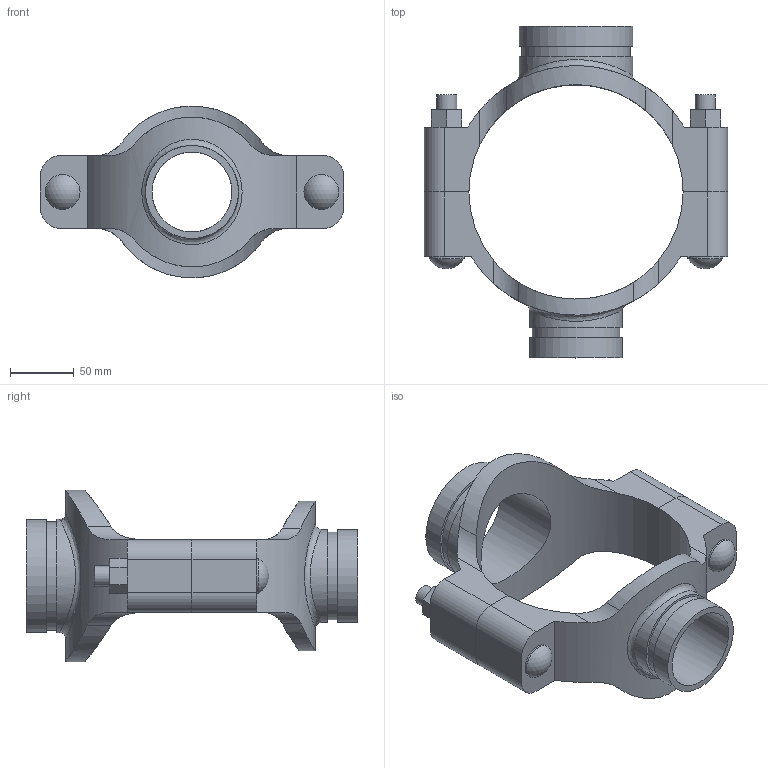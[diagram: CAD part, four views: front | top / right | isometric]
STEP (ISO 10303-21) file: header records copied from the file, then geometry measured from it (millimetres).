
FILE_DESCRIPTION(/* description */ ('VIC MECH-T BRANCH OUTLET CROSS STYLE 920N (GRVD)','CAx-IF Rec.Pracs.---Representation and Presentation of Product Manufacturing Information (PMI)---4.0---2014-10-13'),/* implementation_level */ '2;1');
FILE_NAME(/* name */ 'C:\Users\Vjadhav\AppData\Roaming\Autodesk\ApplicationPlugins\Back Up\Victaulic_IPS_Mechanical-Cross Outlet_Style 920N (OGS)\Victaulic_IPS_Mechanical-Cross Outlet_06.0x03.0x02.5 (150x80x65).stp',/* time_stamp */ '2020-08-06T19:44:54+05:00',/* author */ ('Vjadhav'),/* organization */ ('Victaulic'),/* preprocessor_version */ 'ST-DEVELOPER v17.2',/* originating_system */ 'Autodesk Inventor 2019',/* authorisation */ '');
FILE_SCHEMA (('AP242_MANAGED_MODEL_BASED_3D_ENGINEERING_MIM_LF { 1 0 10303 442 1 1 4 }'));
Length unit declared in the file: inch
Products named in the file (3): 920NG-06.0x03.0x02.5; 920G-06.0x03.0; 920G-06.0x02.5
Assembly tree (2 placements, depth 2):
  920NG-06.0x03.0x02.5
    920G-06.0x03.0
    920G-06.0x02.5
Bounding box: 238.25 x 260.6 x 134.79 mm (x, y, z)
Volume: 871040.9 mm3; surface area: 182512.4 mm2
Topology: 2 solids, 2 shells, 104 faces, 262 edges, 178 vertices
Faces by surface type: plane 54, cylinder 46, sphere 2, bspline 2
Full cylindrical faces by diameter (mm): 15.875 x4, 27.381 x2, 62.738 x1, 69.088 x1, 73.025 x2, 77.787 x1, 84.938 x1, 88.9 x2
Entity records: 4206 total; most frequent: CARTESIAN_POINT 1433, DIRECTION 532, ORIENTED_EDGE 524, EDGE_CURVE 262, AXIS2_PLACEMENT_3D 193, VERTEX_POINT 178, LINE 146, VECTOR 146
